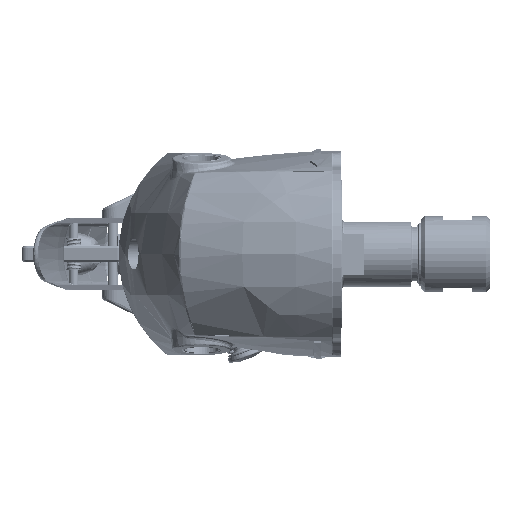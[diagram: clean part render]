
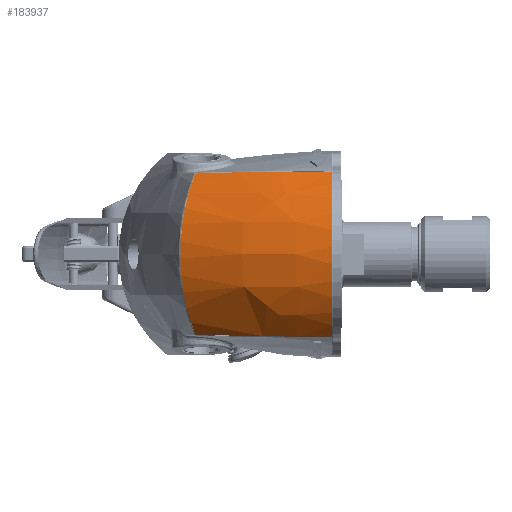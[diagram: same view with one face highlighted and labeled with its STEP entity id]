
A CAD part, left-side view. The second image highlights one B-rep face of the part: STEP entity #183937.
In plain terms, the highlighted free-form (B-spline) face has degree [3, 3] with [4, 7] control points.
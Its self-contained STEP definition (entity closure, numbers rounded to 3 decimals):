
#176166=CARTESIAN_POINT('',(-16.224,-34.,
-22.788));
#176173=CARTESIAN_POINT('',(-16.224,-34.,
22.788));
#176174=CARTESIAN_POINT('',(-17.551,-34.,
21.659));
#176175=CARTESIAN_POINT('',(-19.969,-34.,
19.212));
#176176=CARTESIAN_POINT('',(-22.954,-34.,
14.917));
#176177=CARTESIAN_POINT('',(-25.135,-34.,
10.199));
#176178=CARTESIAN_POINT('',(-26.473,-34.,
5.174));
#176179=CARTESIAN_POINT('',(-26.922,-34.,
-0.001));
#176180=CARTESIAN_POINT('',(-26.472,-34.,
-5.177));
#176181=CARTESIAN_POINT('',(-25.134,-34.,
-10.201));
#176182=CARTESIAN_POINT('',(-22.953,-34.,
-14.919));
#176183=CARTESIAN_POINT('',(-19.967,-34.,
-19.214));
#176184=CARTESIAN_POINT('',(-17.55,-34.,
-21.66));
#176185=CARTESIAN_POINT('',(-16.224,-34.,
-22.788));
#176252=CARTESIAN_POINT('',(-6.387,3.661,
-22.266));
#176257=CARTESIAN_POINT('',(-6.387,3.661,
-22.266));
#176258=CARTESIAN_POINT('',(-7.515,4.079,
-21.182));
#176259=CARTESIAN_POINT('',(-9.596,4.946,
-18.795));
#176260=CARTESIAN_POINT('',(-12.144,6.153,
-14.586));
#176261=CARTESIAN_POINT('',(-13.992,7.099,
-9.957));
#176262=CARTESIAN_POINT('',(-15.112,7.698,
-5.046));
#176263=CARTESIAN_POINT('',(-15.487,7.902,
0.));
#176264=CARTESIAN_POINT('',(-15.112,7.698,
5.046));
#176265=CARTESIAN_POINT('',(-13.992,7.099,
9.957));
#176266=CARTESIAN_POINT('',(-12.144,6.153,
14.588));
#176267=CARTESIAN_POINT('',(-9.595,4.946,
18.796));
#176268=CARTESIAN_POINT('',(-7.515,4.079,
21.182));
#176269=CARTESIAN_POINT('',(-6.387,3.661,
22.266));
#176286=CARTESIAN_POINT('',(-6.387,3.661,
-22.266));
#176287=CARTESIAN_POINT('',(-7.854,-0.064,
-22.394));
#176288=CARTESIAN_POINT('',(-10.398,-7.273,
-22.601));
#176289=CARTESIAN_POINT('',(-13.248,-17.399,
-22.762));
#176290=CARTESIAN_POINT('',(-15.151,-26.35,
-22.819));
#176291=CARTESIAN_POINT('',(-15.928,-31.583,
-22.807));
#176292=CARTESIAN_POINT('',(-16.224,-34.,
-22.788));
#176294=CARTESIAN_POINT('',(-16.224,-34.,
22.788));
#176295=CARTESIAN_POINT('',(-15.928,-31.583,
22.807));
#176296=CARTESIAN_POINT('',(-15.151,-26.35,
22.819));
#176297=CARTESIAN_POINT('',(-13.248,-17.399,
22.762));
#176298=CARTESIAN_POINT('',(-10.397,-7.273,
22.601));
#176299=CARTESIAN_POINT('',(-7.854,-0.064,
22.394));
#176300=CARTESIAN_POINT('',(-6.387,3.661,
22.266));
#180218=VERTEX_POINT('',#176166);
#180219=VERTEX_POINT('',#176173);
#180220=VERTEX_POINT('',#176252);
#180221=CARTESIAN_POINT('',(-6.387,3.661,
22.266));
#180222=VERTEX_POINT('',#180221);
#183902=CARTESIAN_POINT('',(-15.564,-35.605,
-23.469));
#183903=CARTESIAN_POINT('',(-15.279,-32.686,
-23.469));
#183904=CARTESIAN_POINT('',(-14.298,-25.606,
-23.469));
#183905=CARTESIAN_POINT('',(-11.232,-12.804,
-23.469));
#183906=CARTESIAN_POINT('',(-7.44,-2.301,
-23.469));
#183907=CARTESIAN_POINT('',(-4.978,3.347,
-23.469));
#183908=CARTESIAN_POINT('',(-4.85,3.638,
-23.469));
#183909=CARTESIAN_POINT('',(-31.836,-34.016,
-10.45));
#183910=CARTESIAN_POINT('',(-31.504,-30.616,
-10.45));
#183911=CARTESIAN_POINT('',(-30.374,-22.485,
-10.45));
#183912=CARTESIAN_POINT('',(-26.911,-8.05,
-10.45));
#183913=CARTESIAN_POINT('',(-22.684,3.646,
-10.451));
#183914=CARTESIAN_POINT('',(-19.957,9.898,
-10.45));
#183915=CARTESIAN_POINT('',(-19.816,10.22,
-10.45));
#183916=CARTESIAN_POINT('',(-31.836,-34.016,
10.45));
#183917=CARTESIAN_POINT('',(-31.504,-30.616,
10.45));
#183918=CARTESIAN_POINT('',(-30.374,-22.485,
10.449));
#183919=CARTESIAN_POINT('',(-26.911,-8.05,
10.45));
#183920=CARTESIAN_POINT('',(-22.684,3.646,
10.449));
#183921=CARTESIAN_POINT('',(-19.958,9.898,
10.449));
#183922=CARTESIAN_POINT('',(-19.816,10.221,
10.449));
#183923=CARTESIAN_POINT('',(-15.564,-35.605,
23.469));
#183924=CARTESIAN_POINT('',(-15.279,-32.686,
23.469));
#183925=CARTESIAN_POINT('',(-14.299,-25.606,
23.468));
#183926=CARTESIAN_POINT('',(-11.232,-12.804,
23.469));
#183927=CARTESIAN_POINT('',(-7.441,-2.301,
23.468));
#183928=CARTESIAN_POINT('',(-4.979,3.347,
23.468));
#183929=CARTESIAN_POINT('',(-4.851,3.638,
23.468));
#183930=(BOUNDED_SURFACE()B_SPLINE_SURFACE(3,3,((#183902,#183903,#183904,
#183905,#183906,#183907,#183908),(#183909,#183910,#183911,#183912,#183913,
#183914,#183915),(#183916,#183917,#183918,#183919,#183920,#183921,#183922),(
#183923,#183924,#183925,#183926,#183927,#183928,#183929)),.UNSPECIFIED.,.F.,.F.,
.F.)B_SPLINE_SURFACE_WITH_KNOTS((4,4),(4,1,1,1,4),(0.,1.),
(0.043,0.25,0.5,0.75,0.764),.UNSPECIFIED.)GEOMETRIC_REPRESENTATION_ITEM()RATIONAL_B_SPLINE_SURFACE(((1.232,
1.232,1.232,1.232,1.232,
1.232,1.232),(0.923,0.923,
0.923,0.923,0.923,0.923,
0.923),(0.923,0.923,0.923,
0.923,0.923,0.923,0.923),(
1.232,1.232,1.232,1.232,
1.232,1.232,1.232)))REPRESENTATION_ITEM('')SURFACE());
#183931=ORIENTED_EDGE('',*,*,#183485,.T.);
#183932=ORIENTED_EDGE('',*,*,#183720,.F.);
#183933=ORIENTED_EDGE('',*,*,#183802,.T.);
#183934=ORIENTED_EDGE('',*,*,#183895,.F.);
#183935=EDGE_LOOP('',(#183931,#183932,#183933,#183934));
#183936=FACE_OUTER_BOUND('',#183935,.F.);
#183937=ADVANCED_FACE('',(#183936),#183930,.T.);
#176186=B_SPLINE_CURVE_WITH_KNOTS('',3,(#176173,#176174,#176175,#176176,#176177,
#176178,#176179,#176180,#176181,#176182,#176183,#176184,#176185),.UNSPECIFIED.,
.F.,.F.,(4,1,1,1,1,1,1,1,1,1,4),(0.,0.1,0.2,0.3,0.4,0.5,0.6,0.7,
0.8,0.9,1.),.UNSPECIFIED.);
#176270=B_SPLINE_CURVE_WITH_KNOTS('',3,(#176257,#176258,#176259,#176260,#176261,
#176262,#176263,#176264,#176265,#176266,#176267,#176268,#176269),.UNSPECIFIED.,
.F.,.F.,(4,1,1,1,1,1,1,1,1,1,4),(0.,0.1,0.2,0.3,0.4,0.5,0.6,0.7,
0.8,0.9,1.),.UNSPECIFIED.);
#176293=B_SPLINE_CURVE_WITH_KNOTS('',3,(#176286,#176287,#176288,#176289,#176290,
#176291,#176292),.UNSPECIFIED.,.F.,.F.,(4,1,1,1,4),(0.,0.25,0.5,0.75,
1.),.UNSPECIFIED.);
#176301=B_SPLINE_CURVE_WITH_KNOTS('',3,(#176294,#176295,#176296,#176297,#176298,
#176299,#176300),.UNSPECIFIED.,.F.,.F.,(4,1,1,1,4),(0.,0.25,0.5,0.75,
1.),.UNSPECIFIED.);
#183485=EDGE_CURVE('',#180219,#180218,#176186,.T.);
#183720=EDGE_CURVE('',#180220,#180218,#176293,.T.);
#183802=EDGE_CURVE('',#180220,#180222,#176270,.T.);
#183895=EDGE_CURVE('',#180219,#180222,#176301,.T.);
